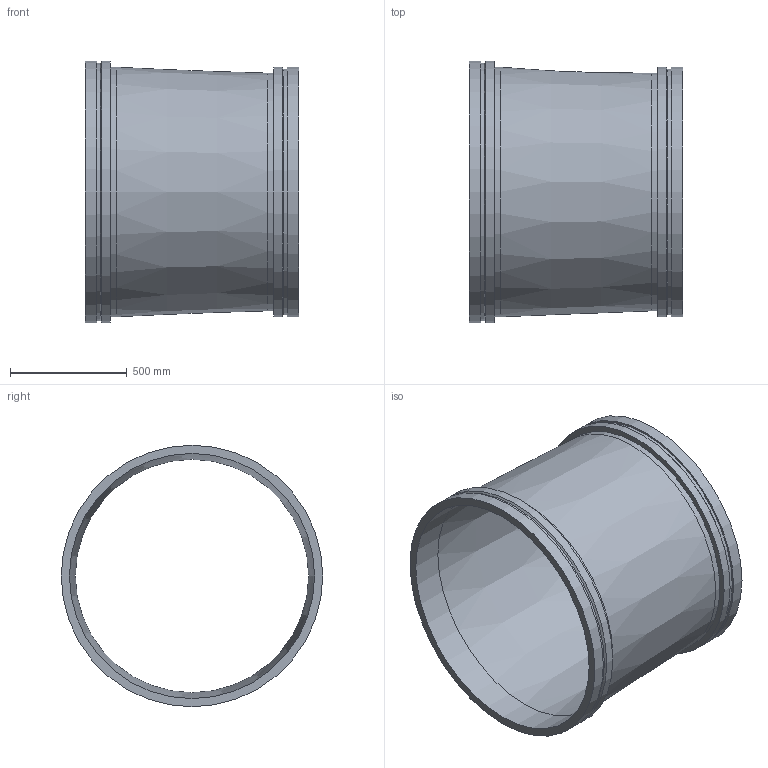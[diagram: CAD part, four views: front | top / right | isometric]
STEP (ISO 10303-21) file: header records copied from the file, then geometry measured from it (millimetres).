
FILE_DESCRIPTION(/* description */ ('VIC REDUCER CONCENTRIC No W50 VR','CAx-IF Rec.Pracs.---Representation and Presentation of Product Manufacturing Information (PMI)---4.0---2014-10-13'),/* implementation_level */ '2;1');
FILE_NAME(/* name */ 'C:\Users\kkamble\AppData\Roaming\Autodesk\ApplicationPlugins\Back Up\Victaulic_Vic-Ring_Reducer Concentric_No W50 VR (AGR)\Victaulic_Vic-Ring_Reducer Concentric_No W50 VR (AGR)_42.0x40.0 (1050x1000).stp',/* time_stamp */ '2020-09-10T11:47:44+05:00',/* author */ ('cps_temp'),/* organization */ ('Victaulic'),/* preprocessor_version */ 'ST-DEVELOPER v17.2',/* originating_system */ 'Autodesk Inventor 2019',/* authorisation */ '');
FILE_SCHEMA (('AP242_MANAGED_MODEL_BASED_3D_ENGINEERING_MIM_LF { 1 0 10303 442 1 1 4 }'));
Length unit declared in the file: inch
Products named in the file (1): W50 VR-42.0x40.0
Bounding box: 914.4 x 1117.6 x 1117.6 mm (x, y, z)
Volume: 45660830.6 mm3; surface area: 6445958.6 mm2
Topology: 1 solids, 1 shells, 20 faces, 54 edges, 40 vertices
Faces by surface type: cylinder 10, plane 6, cone 4
Full cylindrical faces by diameter (mm): 996.95 x1, 1016 x1, 1047.75 x1, 1050.925 x1, 1066.8 x3, 1101.725 x1, 1117.6 x2
Entity records: 830 total; most frequent: DIRECTION 162, CARTESIAN_POINT 132, ORIENTED_EDGE 108, AXIS2_PLACEMENT_3D 74, EDGE_CURVE 54, CIRCLE 40, VERTEX_POINT 40, EDGE_LOOP 26
